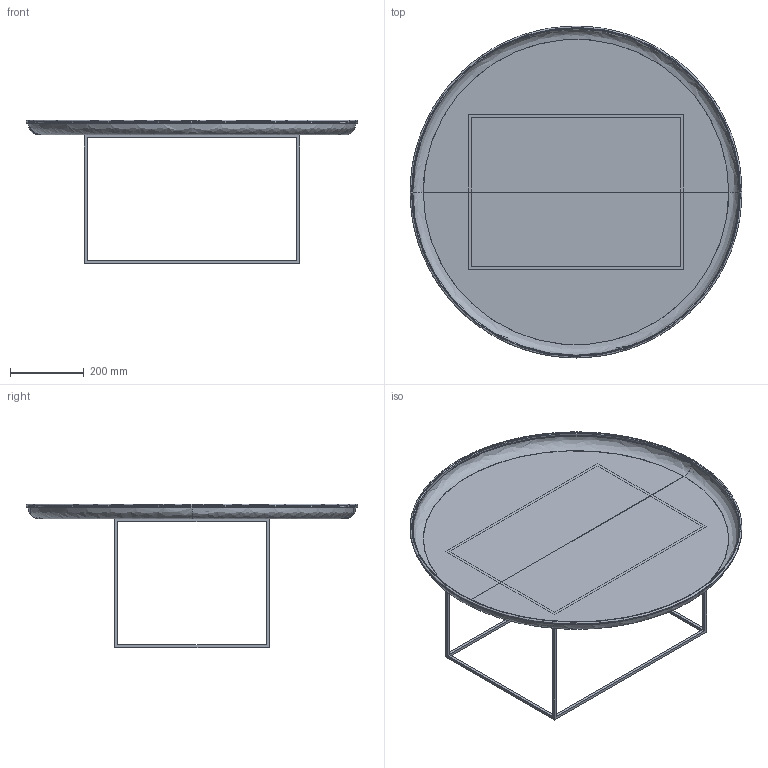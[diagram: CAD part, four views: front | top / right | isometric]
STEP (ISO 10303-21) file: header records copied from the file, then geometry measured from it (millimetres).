
FILE_DESCRIPTION(/* description */ (''),/* implementation_level */ '2;1');
FILE_NAME(/* name */ 'Duke-Coffee-Table_Large_NORR11',/* time_stamp */ '2024-09-27T11:03:39+02:00',/* author */ (''),/* organization */ (''),/* preprocessor_version */ 'ST-DEVELOPER v19.2',/* originating_system */ 'Rhino 8.11',/* authorisation */ '');
FILE_SCHEMA (('CONFIG_CONTROL_DESIGN'));
Length unit declared in the file: millimetre
Products named in the file (1): FamilyGeomCombination_516078-View 1
Bounding box: 900.93 x 900.93 x 389.8 mm (x, y, z)
Volume: 1492220 mm3; surface area: 1549149.2 mm2
Topology: 1 solids, 1 shells, 55 faces, 122 edges, 66 vertices
Faces by surface type: plane 37, bspline 12, cylinder 6
Entity records: 2681 total; most frequent: CARTESIAN_POINT 1635, ORIENTED_EDGE 244, EDGE_CURVE 122, B_SPLINE_CURVE_WITH_KNOTS 98, DIRECTION 95, AXIS2_PLACEMENT_3D 69, VERTEX_POINT 66, EDGE_LOOP 60
